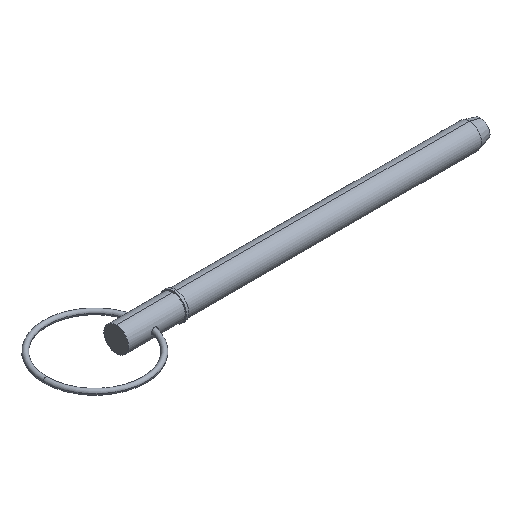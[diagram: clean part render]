
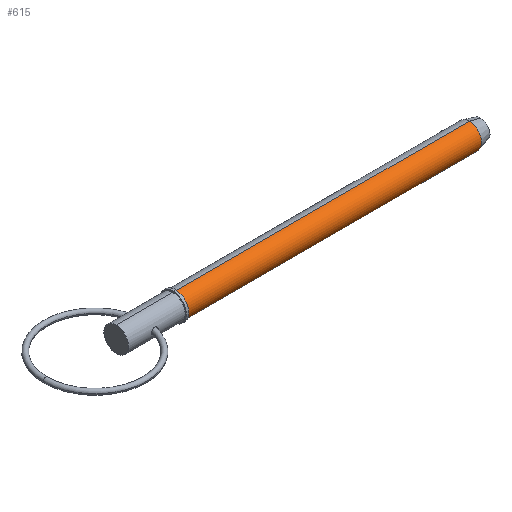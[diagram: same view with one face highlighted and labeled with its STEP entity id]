
A CAD part, isometric view. The second image highlights one B-rep face of the part: STEP entity #615.
In plain terms, the highlighted cylindrical face has radius 3.97 mm (diameter 7.94 mm), a partial arc.
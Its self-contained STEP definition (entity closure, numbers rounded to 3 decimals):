
#2 = DIRECTION ( 'NONE',  ( 1., 0., 0. ) ) ;
#70 = AXIS2_PLACEMENT_3D ( 'NONE', #830, #366, #822 ) ;
#79 = CARTESIAN_POINT ( 'NONE',  ( 113.776, 0., 3.97 ) ) ;
#81 = VERTEX_POINT ( 'NONE', #791 ) ;
#82 = DIRECTION ( 'NONE',  ( 1., 0., 0. ) ) ;
#96 = CARTESIAN_POINT ( 'NONE',  ( 0., 0., 0. ) ) ;
#131 = ORIENTED_EDGE ( 'NONE', *, *, #908, .F. ) ;
#161 = CYLINDRICAL_SURFACE ( 'NONE', #758, 3.97 ) ;
#200 = EDGE_CURVE ( 'NONE', #81, #872, #553, .T. ) ;
#231 = ORIENTED_EDGE ( 'NONE', *, *, #200, .T. ) ;
#253 = DIRECTION ( 'NONE',  ( 1., 0., 0. ) ) ;
#290 = CIRCLE ( 'NONE', #900, 3.97 ) ;
#366 = DIRECTION ( 'NONE',  ( 1., 0., 0. ) ) ;
#418 = DIRECTION ( 'NONE',  ( 1., 0., 0. ) ) ;
#428 = VERTEX_POINT ( 'NONE', #79 ) ;
#471 = EDGE_LOOP ( 'NONE', ( #131, #231, #878, #844 ) ) ;
#494 = CARTESIAN_POINT ( 'NONE',  ( 113.776, 0., 0. ) ) ;
#531 = DIRECTION ( 'NONE',  ( 0., 0., -1. ) ) ;
#553 = CIRCLE ( 'NONE', #70, 3.97 ) ;
#569 = CARTESIAN_POINT ( 'NONE',  ( 19.05, 0., -3.97 ) ) ;
#615 = ADVANCED_FACE ( 'NONE', ( #860 ), #161, .T. ) ;
#670 = CARTESIAN_POINT ( 'NONE',  ( 0., 0., -3.97 ) ) ;
#699 = CARTESIAN_POINT ( 'NONE',  ( 0., 0., 3.97 ) ) ;
#740 = VECTOR ( 'NONE', #418, 1000. ) ;
#749 = LINE ( 'NONE', #699, #881 ) ;
#758 = AXIS2_PLACEMENT_3D ( 'NONE', #96, #253, #870 ) ;
#791 = CARTESIAN_POINT ( 'NONE',  ( 19.05, 0., 3.97 ) ) ;
#810 = VERTEX_POINT ( 'NONE', #818 ) ;
#816 = EDGE_CURVE ( 'NONE', #428, #810, #290, .T. ) ;
#818 = CARTESIAN_POINT ( 'NONE',  ( 113.776, 0., -3.97 ) ) ;
#820 = LINE ( 'NONE', #670, #740 ) ;
#822 = DIRECTION ( 'NONE',  ( 0., 0., -1. ) ) ;
#830 = CARTESIAN_POINT ( 'NONE',  ( 19.05, 0., 0. ) ) ;
#844 = ORIENTED_EDGE ( 'NONE', *, *, #816, .F. ) ;
#860 = FACE_OUTER_BOUND ( 'NONE', #471, .T. ) ;
#870 = DIRECTION ( 'NONE',  ( 0., 0., -1. ) ) ;
#872 = VERTEX_POINT ( 'NONE', #569 ) ;
#878 = ORIENTED_EDGE ( 'NONE', *, *, #994, .T. ) ;
#881 = VECTOR ( 'NONE', #82, 1000. ) ;
#900 = AXIS2_PLACEMENT_3D ( 'NONE', #494, #2, #531 ) ;
#908 = EDGE_CURVE ( 'NONE', #81, #428, #749, .T. ) ;
#994 = EDGE_CURVE ( 'NONE', #872, #810, #820, .T. ) ;
